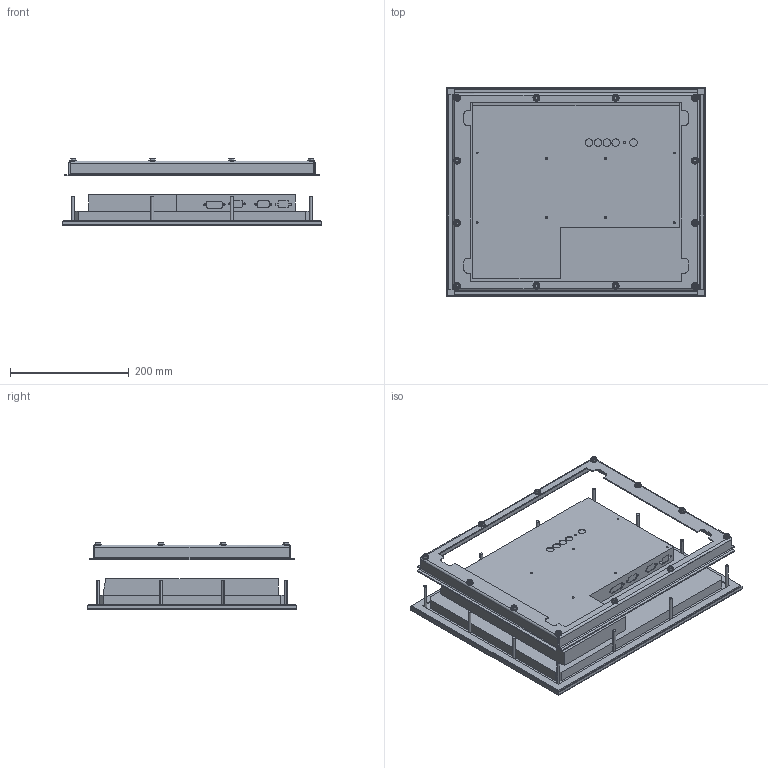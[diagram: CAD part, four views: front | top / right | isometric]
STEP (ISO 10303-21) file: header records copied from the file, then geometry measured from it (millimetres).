
FILE_DESCRIPTION (( 'STEP AP214' ), '1' );
FILE_NAME ('17 inch Panel Mount Monitor, HIS-ML17-xxxH.STEP', '2017-06-23T19:53:42', ( '' ), ( '' ), 'SwSTEP 2.0', 'SolidWorks 2017', '' );
FILE_SCHEMA (( 'AUTOMOTIVE_DESIGN' ));
Length unit declared in the file: millimetre
Products named in the file (4): M5 Nut, 30008_M5 Nut - 30008; Collar, 10005; Monitor, 17H; 17 inch Panel Mount Monitor, HIS-ML17-xxxH
Assembly tree (14 placements, depth 2):
  17 inch Panel Mount Monitor, HIS-ML17-xxxH
    Monitor, 17H
    Collar, 10005
    M5 Nut, 30008_M5 Nut - 30008  x12
Bounding box: 437.77 x 353.57 x 113.82 mm (x, y, z)
Volume: 5556015.3 mm3; surface area: 966492.5 mm2
Topology: 16 solids, 16 shells, 740 faces, 1689 edges, 1010 vertices
Faces by surface type: plane 281, cylinder 195, cone 160, bspline 80, torus 24
Entity records: 11951 total; most frequent: CARTESIAN_POINT 2698, DIRECTION 1925, ORIENTED_EDGE 1806, EDGE_CURVE 903, AXIS2_PLACEMENT_3D 683, VERTEX_POINT 570, VECTOR 559, LINE 559
